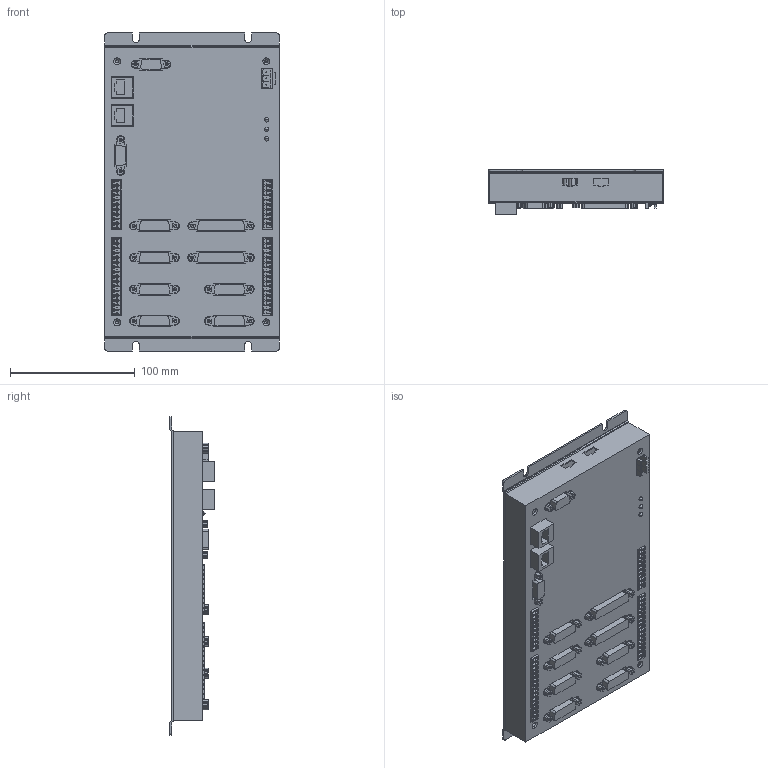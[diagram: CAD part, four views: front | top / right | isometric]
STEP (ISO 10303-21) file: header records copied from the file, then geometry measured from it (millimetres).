
FILE_DESCRIPTION (( 'STEP AP214' ), '1' );
FILE_NAME ('QLS-422.STEP', '2025-09-16T00:24:46', ( '' ), ( '' ), 'SwSTEP 2.0', 'SolidWorks 2025', '' );
FILE_SCHEMA (( 'AUTOMOTIVE_DESIGN' ));
Length unit declared in the file: millimetre
Products named in the file (18): 端子KF2EDGVR5点083Pin; 网口; DB25装配体; QLS-422下壳(A10); 直插式16pin插拔式连接器-母座; DB15装配体; DB9; 螺母柱M3-5; MCC-1004-8版; DB15; QLS-422; 螺母柱M3-3; QLS-422板-装配体(A10); 直插式发光二级管-3mm; 直插式10pin插拔式连接器-母座; DB9装配体; DB25; QLS-422上壳(A10)
Assembly tree (39 placements, depth 4):
  QLS-422
    QLS-422下壳(A10)
    QLS-422板-装配体(A10)
      MCC-1004-8版
      DB15装配体  x6
        DB15
        螺母柱M3-3
        螺母柱M3-5
      直插式16pin插拔式连接器-母座  x2
      直插式10pin插拔式连接器-母座  x2
      直插式发光二级管-3mm  x3
      DB25装配体  x2
        DB25
        螺母柱M3-3
        螺母柱M3-5
      端子KF2EDGVR5点083Pin
      DB9装配体  x2
        DB9
        螺母柱M3-3
        螺母柱M3-5
      网口  x2
    QLS-422上壳(A10)
Bounding box: 140 x 35.7 x 255 mm (x, y, z)
Volume: 188643 mm3; surface area: 278113.7 mm2
Topology: 117 solids, 117 shells, 3795 faces, 9665 edges, 6323 vertices
Faces by surface type: plane 2139, cylinder 1438, cone 212, sphere 6
Entity records: 61633 total; most frequent: DIRECTION 10674, CARTESIAN_POINT 10350, ORIENTED_EDGE 10082, EDGE_CURVE 5041, AXIS2_PLACEMENT_3D 3684, VERTEX_POINT 3344, LINE 3306, VECTOR 3306
